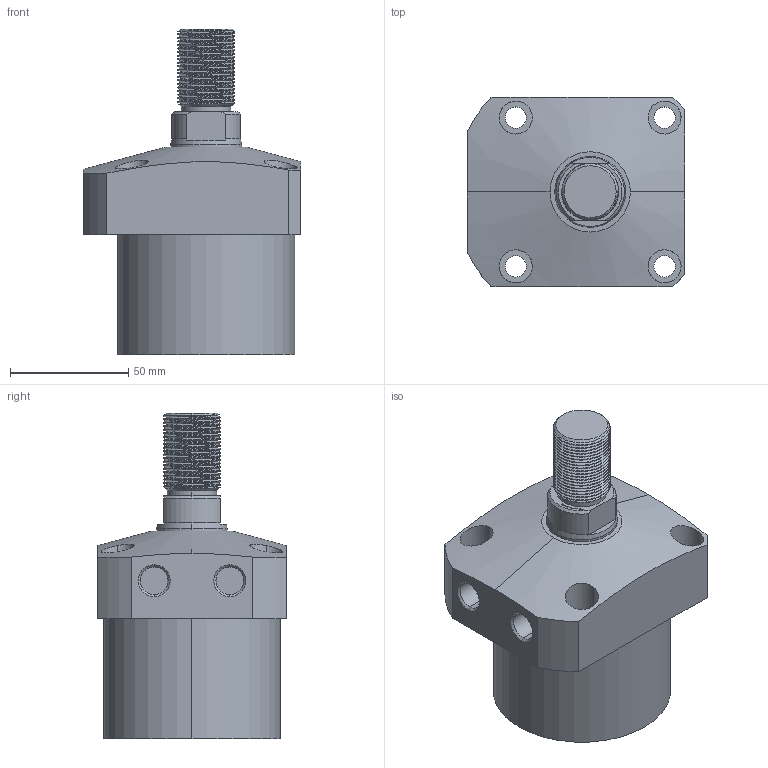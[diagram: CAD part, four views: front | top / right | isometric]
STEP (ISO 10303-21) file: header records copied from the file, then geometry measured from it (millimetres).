
FILE_DESCRIPTION (( 'STEP AP203' ), '1' );
FILE_NAME ('CLL-075CT-035.STEP', '2020-01-08T11:50:51', ( '' ), ( '' ), 'SwSTEP 2.0', 'SolidWorks 2015', '' );
FILE_SCHEMA (( 'CONFIG_CONTROL_DESIGN' ));
Length unit declared in the file: millimetre
Products named in the file (1): CLL-075CT-035
Bounding box: 92 x 80 x 138 mm (x, y, z)
Volume: 468502.6 mm3; surface area: 46355.8 mm2
Topology: 1 solids, 1 shells, 122 faces, 312 edges, 204 vertices
Faces by surface type: cylinder 77, plane 25, cone 16, bspline 4
Entity records: 7967 total; most frequent: CARTESIAN_POINT 5171, ORIENTED_EDGE 624, DIRECTION 511, EDGE_CURVE 312, VERTEX_POINT 204, AXIS2_PLACEMENT_3D 199, EDGE_LOOP 142, FACE_OUTER_BOUND 122
